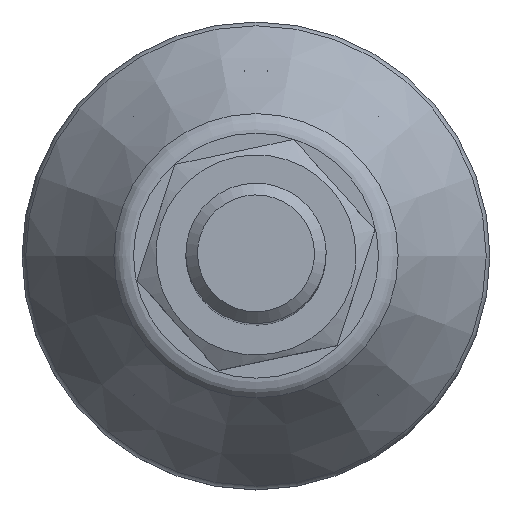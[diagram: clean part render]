
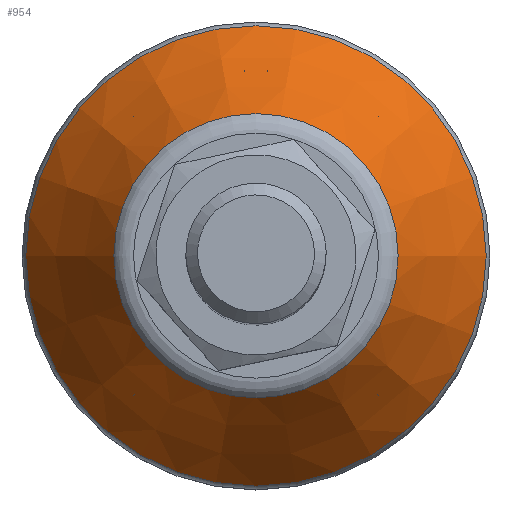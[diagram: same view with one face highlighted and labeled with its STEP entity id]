
A CAD part, top view. The second image highlights one B-rep face of the part: STEP entity #954.
In plain terms, the highlighted conical face has half-angle 33 degrees and reference radius 15.913 mm.
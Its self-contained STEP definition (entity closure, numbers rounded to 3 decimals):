
#954=ADVANCED_FACE('',(#2151,#2153),#2155,.T.);
#2151=FACE_BOUND('',#2152,.T.);
#2152=EDGE_LOOP('',(#3163,#3164));
#2153=FACE_BOUND('',#2154,.T.);
#2154=EDGE_LOOP('',(#3165,#3166));
#2155=CONICAL_SURFACE('',#2156,15.913,0.576);
#2156=AXIS2_PLACEMENT_3D('',#2157,#2158,#2159);
#2157=CARTESIAN_POINT('',(0.,0.,11.293));
#2158=DIRECTION('',(0.,0.,-1.));
#2159=DIRECTION('',(1.,0.,0.));
#3163=ORIENTED_EDGE('',*,*,#3714,.T.);
#3164=ORIENTED_EDGE('',*,*,#3713,.T.);
#3165=ORIENTED_EDGE('',*,*,#3717,.F.);
#3166=ORIENTED_EDGE('',*,*,#3718,.F.);
#3713=EDGE_CURVE('',#4285,#4286,#4287,.T.);
#3714=EDGE_CURVE('',#4286,#4285,#4288,.T.);
#3717=EDGE_CURVE('',#4293,#4294,#4295,.T.);
#3718=EDGE_CURVE('',#4294,#4293,#4296,.T.);
#4285=VERTEX_POINT('',#7271);
#4286=VERTEX_POINT('',#7272);
#4287=CIRCLE('',#7273,19.677);
#4288=CIRCLE('',#7277,19.677);
#4293=VERTEX_POINT('',#7291);
#4294=VERTEX_POINT('',#7292);
#4295=CIRCLE('',#7293,12.149);
#4296=CIRCLE('',#7297,12.149);
#7271=CARTESIAN_POINT('',(-19.677,0.,5.497));
#7272=CARTESIAN_POINT('',(19.677,0.,5.497));
#7273=AXIS2_PLACEMENT_3D('',#7274,#7275,#7276);
#7274=CARTESIAN_POINT('',(0.,0.,5.497));
#7275=DIRECTION('',(0.,0.,1.));
#7276=DIRECTION('',(-1.,0.,0.));
#7277=AXIS2_PLACEMENT_3D('',#7278,#7279,#7280);
#7278=CARTESIAN_POINT('',(0.,0.,5.497));
#7279=DIRECTION('',(0.,0.,1.));
#7280=DIRECTION('',(1.,0.,0.));
#7291=CARTESIAN_POINT('',(-12.149,0.,17.089));
#7292=CARTESIAN_POINT('',(12.149,0.,17.089));
#7293=AXIS2_PLACEMENT_3D('',#7294,#7295,#7296);
#7294=CARTESIAN_POINT('',(0.,0.,17.089));
#7295=DIRECTION('',(0.,0.,1.));
#7296=DIRECTION('',(-1.,0.,0.));
#7297=AXIS2_PLACEMENT_3D('',#7298,#7299,#7300);
#7298=CARTESIAN_POINT('',(0.,0.,17.089));
#7299=DIRECTION('',(0.,0.,1.));
#7300=DIRECTION('',(1.,0.,0.));
